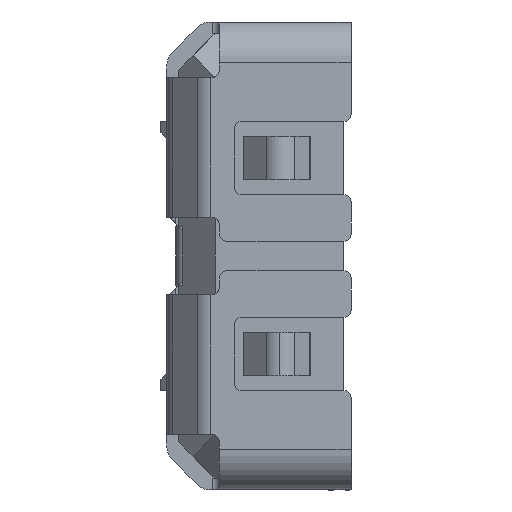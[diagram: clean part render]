
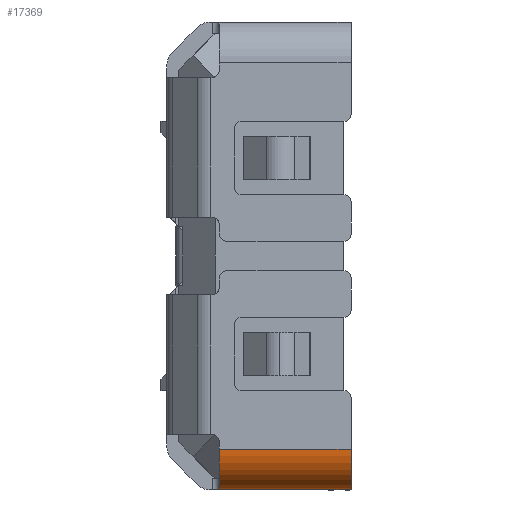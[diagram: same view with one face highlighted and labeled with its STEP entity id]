
A CAD part, left-side view. The second image highlights one B-rep face of the part: STEP entity #17369.
In plain terms, the highlighted cylindrical face has radius 0.28 mm (diameter 0.56 mm), a partial arc.
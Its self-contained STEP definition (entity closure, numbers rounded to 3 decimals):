
#815 = VECTOR ( 'NONE', #23859, 1000. ) ;
#1216 = CARTESIAN_POINT ( 'NONE',  ( -6.245, 0., -1.6 ) ) ;
#1368 = AXIS2_PLACEMENT_3D ( 'NONE', #22509, #16056, #29209 ) ;
#1436 = CARTESIAN_POINT ( 'NONE',  ( -6.245, 0., -1.6 ) ) ;
#3122 = VERTEX_POINT ( 'NONE', #42157 ) ;
#5207 = CARTESIAN_POINT ( 'NONE',  ( -6.525, 0.9, -1.32 ) ) ;
#8043 = DIRECTION ( 'NONE',  ( 0., 1., 0. ) ) ;
#8787 = AXIS2_PLACEMENT_3D ( 'NONE', #31740, #8043, #21010 ) ;
#13255 = CIRCLE ( 'NONE', #34649, 0.28 ) ;
#13597 = CARTESIAN_POINT ( 'NONE',  ( -6.525, 0., -1.32 ) ) ;
#14245 = VECTOR ( 'NONE', #38785, 1000. ) ;
#15385 = ORIENTED_EDGE ( 'NONE', *, *, #28588, .F. ) ;
#15427 = CARTESIAN_POINT ( 'NONE',  ( -6.245, 0.9, -1.6 ) ) ;
#15651 = CIRCLE ( 'NONE', #1368, 0.28 ) ;
#16056 = DIRECTION ( 'NONE',  ( 0., 1., 0. ) ) ;
#17369 = ADVANCED_FACE ( 'NONE', ( #18120 ), #34857, .T. ) ;
#18120 = FACE_OUTER_BOUND ( 'NONE', #42798, .T. ) ;
#19760 = CARTESIAN_POINT ( 'NONE',  ( -6.245, 0., -1.32 ) ) ;
#20854 = ORIENTED_EDGE ( 'NONE', *, *, #41948, .T. ) ;
#21010 = DIRECTION ( 'NONE',  ( 0., 0., -1. ) ) ;
#22509 = CARTESIAN_POINT ( 'NONE',  ( -6.245, 0.9, -1.32 ) ) ;
#23859 = DIRECTION ( 'NONE',  ( 0., 1., 0. ) ) ;
#24382 = ORIENTED_EDGE ( 'NONE', *, *, #25575, .T. ) ;
#25575 = EDGE_CURVE ( 'NONE', #3122, #33217, #30552, .T. ) ;
#25786 = LINE ( 'NONE', #1216, #14245 ) ;
#28588 = EDGE_CURVE ( 'NONE', #41707, #37622, #25786, .T. ) ;
#29209 = DIRECTION ( 'NONE',  ( 0., 0., 1. ) ) ;
#29954 = EDGE_CURVE ( 'NONE', #37622, #33217, #15651, .T. ) ;
#30254 = DIRECTION ( 'NONE',  ( 0., 1., 0. ) ) ;
#30552 = LINE ( 'NONE', #13597, #815 ) ;
#31740 = CARTESIAN_POINT ( 'NONE',  ( -6.245, 0., -1.32 ) ) ;
#33217 = VERTEX_POINT ( 'NONE', #5207 ) ;
#34573 = ORIENTED_EDGE ( 'NONE', *, *, #29954, .F. ) ;
#34649 = AXIS2_PLACEMENT_3D ( 'NONE', #19760, #30254, #40535 ) ;
#34857 = CYLINDRICAL_SURFACE ( 'NONE', #8787, 0.28 ) ;
#37622 = VERTEX_POINT ( 'NONE', #15427 ) ;
#38785 = DIRECTION ( 'NONE',  ( 0., 1., 0. ) ) ;
#40535 = DIRECTION ( 'NONE',  ( 0., 0., 1. ) ) ;
#41707 = VERTEX_POINT ( 'NONE', #1436 ) ;
#41948 = EDGE_CURVE ( 'NONE', #41707, #3122, #13255, .T. ) ;
#42157 = CARTESIAN_POINT ( 'NONE',  ( -6.525, 0., -1.32 ) ) ;
#42798 = EDGE_LOOP ( 'NONE', ( #34573, #15385, #20854, #24382 ) ) ;
